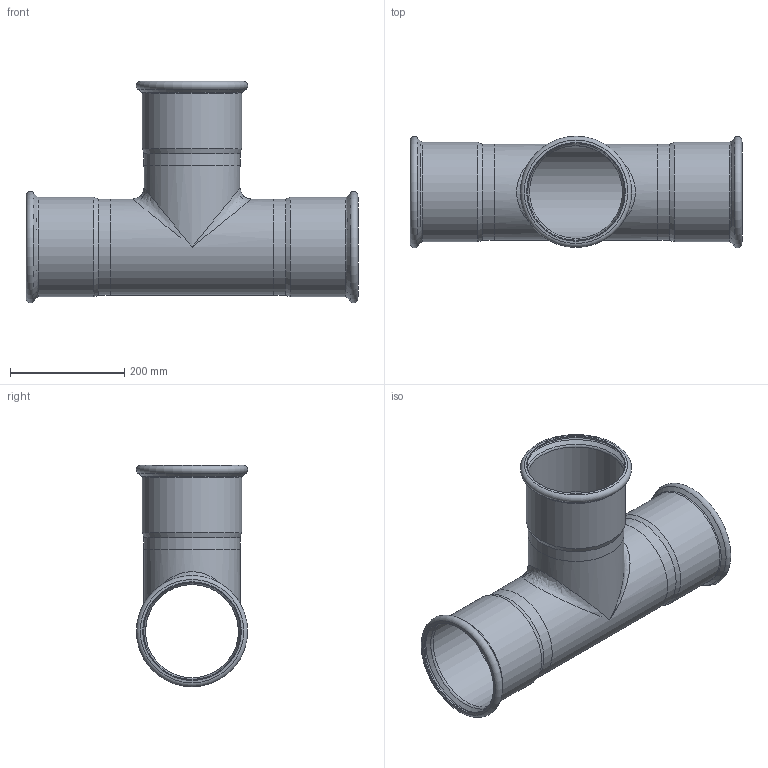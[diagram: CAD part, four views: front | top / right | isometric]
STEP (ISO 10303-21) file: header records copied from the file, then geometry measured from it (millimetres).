
FILE_DESCRIPTION((''),'2;1');
FILE_NAME('G:\Nirosan-Schmiedefeld\Technics\CAD\001 Serie 9.000\169_va\69130168H(0).stp','2020-10-06T13:24:44',('herberg'),(''),'Autodesk Inventor 2009','Autodesk Inventor 2009','');
FILE_SCHEMA(('AUTOMOTIVE_DESIGN { 1 0 10303 214 1 1 1 1 }'));
Length unit declared in the file: millimetre
Products named in the file (3): 69130168H(0); 69130168P(0); 69HM168P(0)
Assembly tree (4 placements, depth 2):
  69130168H(0)
    69130168P(0)
    69HM168P(0)  x3
Bounding box: 582 x 195.18 x 388.59 mm (x, y, z)
Volume: 1106991.5 mm3; surface area: 863499.4 mm2
Topology: 4 solids, 4 shells, 62 faces, 129 edges, 63 vertices
Faces by surface type: cone 24, cylinder 16, bspline 10, plane 6, torus 6
Full cylindrical faces by diameter (mm): 163.1 x5, 168.3 x5, 169.3 x3, 174.5 x3
Entity records: 1788 total; most frequent: CARTESIAN_POINT 1213, DIRECTION 120, ORIENTED_EDGE 62, AXIS2_PLACEMENT_3D 60, EDGE_LOOP 54, EDGE_CURVE 31, FACE_OUTER_BOUND 28, ADVANCED_FACE 28
